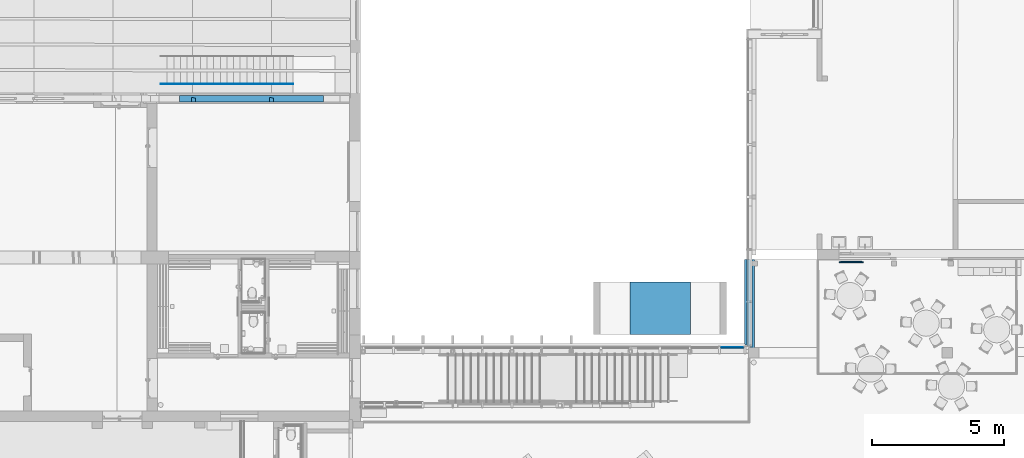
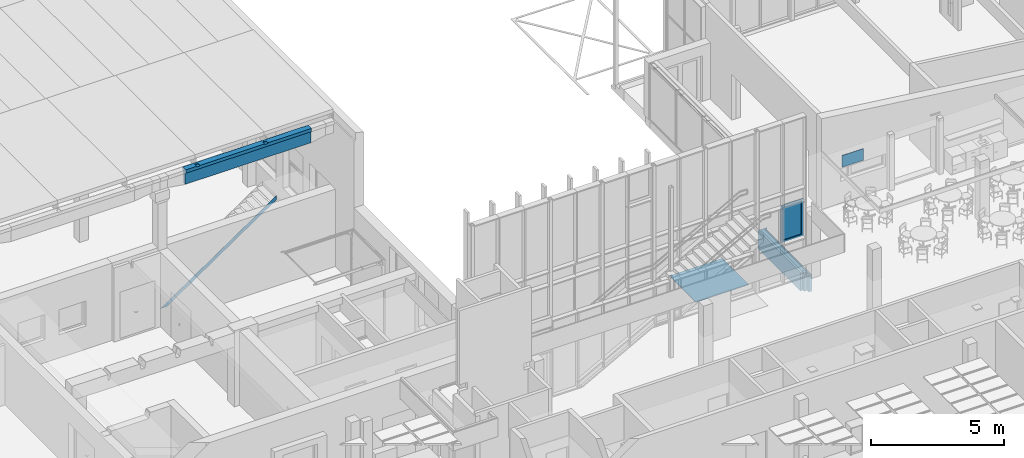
# One storey, part 202 of 301: 7 building element parts, 2 discrete accessories, 5 elements without a shape of their own.
"""IFC2X3 building model written with IfcOpenShell, lengths in millimetres."""

from ifc_helpers import new_model, entity, si_unit, converted_unit, derived_unit, money_unit, direction, frame, origin_with_axes, place, context, subcontext, project, spatial, faceted_brep, material, type_object, element, aggregate, save


model = new_model("IFC2X3")

# Units and contexts
model_context = context("Model", 3, precision=0.01, world=origin_with_axes(), true_north=direction((0.0, 1.0)))
body_context = subcontext(model_context, "Body", "Model", "MODEL_VIEW")
ifc_project = project(units=[si_unit("LENGTHUNIT", "METRE", prefix="MILLI"), si_unit("AREAUNIT", "SQUARE_METRE"), si_unit("VOLUMEUNIT", "CUBIC_METRE"), converted_unit("PLANEANGLEUNIT", "DEGREE", entity("IfcPlaneAngleMeasure", 0.0174532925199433), si_unit("PLANEANGLEUNIT", "RADIAN"), dimensions=[0, 0, 0, 0, 0, 0, 0]), money_unit("EUR"), converted_unit("TIMEUNIT", "Year", entity("IfcTimeMeasure", 31557600.0), si_unit("TIMEUNIT", "SECOND"), dimensions=[0, 0, 1, 0, 0, 0, 0]), si_unit("MASSUNIT", "GRAM", prefix="KILO"), si_unit("THERMODYNAMICTEMPERATUREUNIT", "DEGREE_CELSIUS"), si_unit("LUMINOUSINTENSITYUNIT", "LUMEN"), si_unit("ENERGYUNIT", "JOULE", prefix="MEGA"), derived_unit("THERMALCONDUCTANCEUNIT", [(si_unit("POWERUNIT", "WATT"), 1), (si_unit("LENGTHUNIT", "METRE"), -1), (si_unit("THERMODYNAMICTEMPERATUREUNIT", "KELVIN"), -1)]), derived_unit("SPECIFICHEATCAPACITYUNIT", [(si_unit("ENERGYUNIT", "JOULE"), 1), (si_unit("MASSUNIT", "GRAM", prefix="KILO"), -1), (si_unit("THERMODYNAMICTEMPERATUREUNIT", "KELVIN"), -1)]), derived_unit("MASSDENSITYUNIT", [(si_unit("MASSUNIT", "GRAM", prefix="KILO"), 1), (si_unit("VOLUMEUNIT", "CUBIC_METRE"), -1)])], contexts=[model_context])

# Site, building, storey
site_placement = place(None, frame((0.0, 0.0, 8650.0), z_axis=(0.0, 0.0, 1.0), x_axis=(1.0, 0.0, 0.0)))
site = spatial("IfcSite", under=ifc_project, at=site_placement, Name="43301:001:0844", CompositionType="ELEMENT")
building_placement = place(site_placement, origin_with_axes())
building = spatial("IfcBuilding", under=site, at=building_placement, Name="Kuressaare Ametikooli tuulikute mehaanikute õppekorpus", CompositionType="ELEMENT")
storey_placement = place(building_placement, origin_with_axes())
storey = spatial("IfcBuildingStorey", under=building, at=storey_placement, Name="1.korrus", CompositionType="ELEMENT", Elevation=0.0)

# Discrete accessories
ifc_material_1 = material(Name="GENEERILINE - EHITUSTOODE")
discrete_accessory_type_1 = type_object("IfcDiscreteAccessoryType", Name="GENEERILINE - EHITUSTOODE 20")
discrete_accessory_1_placement = place(storey_placement, frame((113867.1026822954, 29084.06892370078, -50.0), z_axis=(0.0, 0.0, 1.0), x_axis=(1.0, 0.0, 0.0)))
element("IfcDiscreteAccessory", 1, at=discrete_accessory_1_placement, inside=storey, type_object=discrete_accessory_type_1, material=ifc_material_1, Name="Jalapuhastusrest", context=body_context, shape_type="Brep", body=[
    faceted_brep([(0.0, 0.0, 0.0), (0.0, 0.0, -20.0), (2299.999999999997, 0.0, -20.0), (2299.999999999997, 0.0, 0.0), (0.0, 2000.0, 0.0), (0.0, 2000.0, -20.0), (2299.999999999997, 2000.0, -20.0), (2299.999999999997, 2000.0, 0.0)], [[[0, 1, 2, 3]], [[4, 5, 1, 0]], [[2, 1, 5, 6]], [[3, 2, 6, 7]], [[4, 0, 3, 7]], [[7, 6, 5, 4]]]),
])
discrete_accessory_type_2 = type_object("IfcDiscreteAccessoryType", Name="Flat Panel TV 27")
discrete_accessory_2_placement = place(storey_placement, frame((121807.4045027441, 31816.81986271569, 1710.47140002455), z_axis=(0.0, 0.0, 1.0), x_axis=(1.0, 0.0, 0.0)))
element("IfcDiscreteAccessory", 2, at=discrete_accessory_2_placement, inside=storey, type_object=discrete_accessory_type_2, Name="Info-TV", context=body_context, shape_type="Brep", body=[
    faceted_brep([(905.5207457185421, 0.0, 20.0), (905.5207457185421, 0.9999999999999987, 20.0), (905.5207457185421, 0.9999999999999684, 518.10541946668), (905.5207457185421, 0.0, 518.10541946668), (20.0, 0.0, 20.0), (20.0, 0.9999999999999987, 20.0), (20.0, 0.9999999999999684, 518.10541946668), (20.0, 0.0, 518.10541946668)], [[[0, 1, 2, 3]], [[4, 5, 1, 0]], [[1, 5, 6, 2]], [[3, 2, 6, 7]], [[0, 3, 7, 4]], [[7, 6, 5, 4]]]),
    faceted_brep([(925.5207457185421, 0.0, 538.10541946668), (0.0, 0.0, 538.10541946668), (0.0, 0.0, 0.0), (925.5207457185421, 0.0, 0.0), (20.00000000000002, 0.0, 19.99999999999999), (20.00000000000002, 0.0, 518.10541946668), (905.5207457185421, 0.0, 518.10541946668), (905.5207457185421, 0.0, 19.99999999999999), (925.5207456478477, 24.99999999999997, 538.105419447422), (-3.895163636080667e-07, 24.99999999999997, 538.105419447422), (-3.895163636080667e-07, 25.0, -3.895163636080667e-07), (925.5207456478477, 25.0, -3.895163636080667e-07), (20.00000000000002, 0.9999999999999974, 19.99999999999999), (20.00000000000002, 0.9999999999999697, 518.10541946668), (905.5207457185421, 0.9999999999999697, 518.10541946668), (905.5207457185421, 0.9999999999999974, 19.99999999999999), (832.2194740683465, 50.000000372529, 444.8041478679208), (93.30127118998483, 50.000000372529, 444.8041478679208), (93.30127118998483, 50.00000037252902, 93.30127118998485), (832.2194740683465, 50.00000037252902, 93.30127118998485)], [[[0, 1, 2, 3], [4, 5, 6, 7]], [[8, 9, 1, 0]], [[9, 10, 2, 1]], [[10, 11, 3, 2]], [[11, 8, 0, 3]], [[5, 4, 12, 13]], [[6, 5, 13, 14]], [[7, 6, 14, 15]], [[4, 7, 15, 12]], [[16, 17, 9, 8]], [[17, 18, 10, 9]], [[18, 19, 11, 10]], [[19, 16, 8, 11]], [[14, 13, 12, 15]], [[16, 19, 18, 17]]]),
    faceted_brep([(462.7603728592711, -0.8000000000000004, 5.0), (462.7603728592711, 0.0, 5.0), (472.0155803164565, 0.0, 10.0), (472.0155803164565, -0.8000000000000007, 10.0), (453.5051654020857, -0.8000000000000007, 10.0), (453.5051654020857, 0.0, 10.0), (370.2082982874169, 0.0, 15.0), (555.3124474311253, 0.0, 15.0), (555.3124474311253, -0.800000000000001, 15.0), (370.2082982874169, -0.800000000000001, 15.0)], [[[0, 1, 2, 3]], [[4, 5, 1, 0]], [[1, 5, 6, 7, 2]], [[3, 2, 7, 8]], [[0, 3, 8, 9, 4]], [[9, 6, 5, 4]], [[8, 7, 6, 9]]]),
    faceted_brep([(123.4027660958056, 9.999999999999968, 538.10541946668), (123.4027660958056, 9.999999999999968, 539.70541946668), (61.70138304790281, 9.999999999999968, 539.70541946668), (61.70138304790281, 9.999999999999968, 538.10541946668), (123.4027660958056, 16.24999999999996, 538.10541946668), (123.4027660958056, 16.24999999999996, 539.70541946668), (61.70138304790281, 16.24999999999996, 539.70541946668), (61.70138304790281, 16.24999999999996, 538.10541946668)], [[[0, 1, 2, 3]], [[0, 4, 5, 1]], [[1, 5, 6, 2]], [[2, 6, 7, 3]], [[3, 7, 4, 0]], [[7, 6, 5, 4]]]),
    faceted_brep([(189.5113907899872, 9.999999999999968, 538.10541946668), (189.5113907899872, 9.999999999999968, 539.70541946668), (127.8100077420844, 9.999999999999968, 539.70541946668), (127.8100077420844, 9.999999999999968, 538.10541946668), (189.5113907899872, 16.24999999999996, 538.10541946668), (189.5113907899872, 16.24999999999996, 539.70541946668), (127.8100077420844, 16.24999999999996, 539.70541946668), (127.8100077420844, 16.24999999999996, 538.10541946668)], [[[0, 1, 2, 3]], [[0, 4, 5, 1]], [[1, 5, 6, 2]], [[2, 6, 7, 3]], [[3, 7, 4, 0]], [[7, 6, 5, 4]]]),
    faceted_brep([(224.7693239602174, 9.999999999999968, 538.10541946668), (224.7693239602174, 9.999999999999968, 539.70541946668), (193.918632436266, 9.999999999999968, 539.70541946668), (193.918632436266, 9.999999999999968, 538.10541946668), (224.7693239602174, 16.24999999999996, 538.10541946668), (224.7693239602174, 16.24999999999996, 539.70541946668), (193.918632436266, 16.24999999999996, 539.70541946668), (193.918632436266, 16.24999999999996, 538.10541946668)], [[[0, 1, 2, 3]], [[0, 4, 5, 1]], [[1, 5, 6, 2]], [[2, 6, 7, 3]], [[3, 7, 4, 0]], [[7, 6, 5, 4]]]),
])

# Wall, building element parts
wall_type = type_object("IfcWallType", Name="TUUL_vundament_madal 380 x 850", PredefinedType="NOTDEFINED")
wall_placement = place(storey_placement, frame((118494.5801876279, 31928.83180723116, 0.0), z_axis=(0.0, 0.0, 1.0), x_axis=(-8.787762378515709e-06, -0.9999999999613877, 0.0)))
wall = element("IfcWall", 3, at=wall_placement, inside=storey, type_object=wall_type, Name="Sokkel")
ifc_material_2 = material(Name="Betoon - C30/37")
building_element_part_1_placement = place(wall_placement, origin_with_axes())
building_element_part_1 = element("IfcBuildingElementPart", 4, at=building_element_part_1_placement, material=ifc_material_2, Name="Betoon - C30/37", context=body_context, shape_type="Brep", body=[
    faceted_brep([(3419.213262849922, -0.001101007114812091, 0.0), (6.932027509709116, -0.03108732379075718, 0.0), (6.931148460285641, 99.9999999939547, 0.0), (0.0, 99.99999999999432, 0.0), (0.0, -49.99999999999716, 0.0), (3419.213702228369, -49.99999999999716, 0.0), (3419.213262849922, -0.001101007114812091, -99.99999999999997), (6.932027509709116, -0.03108732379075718, -99.99999999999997), (6.93114846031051, 99.99999701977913, -99.99999999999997), (3419.212384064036, 99.99999701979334, -99.99999999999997), (3419.212384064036, 99.99999701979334, -850.0000000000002), (0.0, 99.99999999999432, -850.0000000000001), (0.0, -49.99999999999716, -850.0000000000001), (3419.213702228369, -49.99999999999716, -850.0000000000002)], [[[0, 1, 2, 3, 4, 5]], [[1, 0, 6, 7]], [[8, 2, 1, 7]], [[8, 9, 10, 11, 3, 2]], [[12, 4, 3, 11]], [[12, 13, 5, 4]], [[6, 0, 5, 13, 10, 9]], [[9, 8, 7, 6]], [[11, 10, 13, 12]]]),
])
building_element_part_2_placement = place(wall_placement, origin_with_axes())
building_element_part_2 = element("IfcBuildingElementPart", 5, at=building_element_part_2_placement, material=ifc_material_2, Name="Betoon - C30/37", context=body_context, shape_type="Brep", body=[
    faceted_brep([(3289.214844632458, -180.0000000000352, 0.0), (3189.214844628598, -179.9999999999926, -10.00000000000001), (3189.214844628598, -179.9999999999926, -850.0000000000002), (0.0, -179.9999999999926, -850.0000000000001), (0.0, -179.9999999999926, 0.0), (3189.215723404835, -279.9999999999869, -10.00000000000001), (3189.215723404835, -279.9999999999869, -850.0000000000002), (0.0, -280.0000000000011, -850.0000000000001), (0.0, -280.0000000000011, -10.00000000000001)], [[[0, 1, 2, 3, 4]], [[5, 1, 0]], [[6, 2, 1, 5]], [[3, 2, 6, 7]], [[7, 8, 4, 3]], [[8, 5, 0, 4]], [[7, 6, 5, 8]]]),
])
ifc_material_3 = material(Name="Soojustus - Vahtpolüstüreen")
building_element_part_3_placement = place(wall_placement, origin_with_axes())
building_element_part_3 = element("IfcBuildingElementPart", 6, at=building_element_part_3_placement, material=ifc_material_3, Name="Soojustus - Vahtpolüstüreen", context=body_context, shape_type="Brep", body=[
    faceted_brep([(0.0, -179.9999970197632, 0.0), (3289.214847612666, -179.9999970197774, 0.0), (3289.213705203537, -49.99999478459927, 0.0), (0.0, -49.99999478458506, 0.0), (0.0, -179.9999970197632, -850.0000000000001), (3289.214847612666, -179.9999970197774, -850.0000000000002), (3289.213705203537, -49.99999478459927, -850.0000000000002), (0.0, -49.99999478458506, -850.0000000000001)], [[[0, 1, 2, 3]], [[4, 5, 1, 0]], [[5, 6, 2, 1]], [[3, 2, 6, 7]], [[7, 4, 0, 3]], [[7, 6, 5, 4]]]),
])
aggregate(wall, [building_element_part_1, building_element_part_2, building_element_part_3])

# Curtain wall, window, building element parts
curtain_wall_type = type_object("IfcCurtainWallType", Name="Curtain Wall Type", PredefinedType="NOTDEFINED")
curtain_wall_placement = place(storey_placement, frame((116704.6026822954, 28579.57374875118, 35.00000000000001), z_axis=(0.0, 0.0, 1.0), x_axis=(1.0, 0.0, 0.0)))
curtain_wall = element("IfcCurtainWall", 7, at=curtain_wall_placement, inside=storey, type_object=curtain_wall_type, Name="KF-1.1")
window_style = type_object("IfcWindowStyle", Name="964 x 1695 x 40", ConstructionType="NOTDEFINED", OperationType="SINGLE_PANEL", ParameterTakesPrecedence=False, Sizeable=False)
window_placement = place(curtain_wall_placement, frame((1049.709432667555, 0.0, 2617.500011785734), z_axis=(0.0, 0.0, 1.0), x_axis=(-1.0, 0.0, 0.0)))
window = element("IfcWindow", 8, at=window_placement, type_object=window_style, OverallHeight=1655.0, OverallWidth=924.419)
aggregate(curtain_wall, [window])
ifc_material_4 = material(Name="Aluminium")
building_element_part_4_placement = place(window_placement, origin_with_axes())
building_element_part_4 = element("IfcBuildingElementPart", 9, at=building_element_part_4_placement, material=ifc_material_4, Name="Aluminium", context=body_context, shape_type="Brep", body=[
    faceted_brep([(462.2094323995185, -30.00000000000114, -827.500004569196), (462.2094323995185, -35.00000000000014, -827.500004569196), (-462.2094291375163, -35.00000000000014, -827.500004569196), (-462.2094291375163, -30.00000000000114, -827.500004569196), (417.2094323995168, -30.00000000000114, -782.5000045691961), (417.2094323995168, -35.00000000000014, -782.5000045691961), (-417.2094291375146, -35.00000000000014, -782.5000045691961), (-417.2094291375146, -30.00000000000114, -782.5000045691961)], [[[0, 1, 2, 3]], [[4, 5, 1, 0]], [[1, 5, 6, 2]], [[3, 2, 6, 7]], [[0, 3, 7, 4]], [[7, 6, 5, 4]]]),
    faceted_brep([(-462.2094291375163, -30.00000000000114, -827.500004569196), (-462.2094291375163, -35.00000000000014, -827.500004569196), (-462.2094291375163, -35.00000000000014, 827.5000131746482), (-462.2094291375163, -30.00000000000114, 827.5000131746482), (-417.2094291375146, -30.00000000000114, -782.5000045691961), (-417.2094291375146, -35.00000000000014, -782.5000045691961), (-417.2094291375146, -35.00000000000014, 782.5000131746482), (-417.2094291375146, -30.00000000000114, 782.5000131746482)], [[[0, 1, 2, 3]], [[4, 5, 1, 0]], [[1, 5, 6, 2]], [[3, 2, 6, 7]], [[0, 3, 7, 4]], [[7, 6, 5, 4]]]),
    faceted_brep([(462.2094323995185, -30.00000000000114, 827.5000131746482), (462.2094323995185, -35.00000000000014, 827.5000131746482), (417.2094323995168, -35.00000000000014, 782.5000131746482), (417.2094323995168, -30.00000000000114, 782.5000131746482), (-462.2094291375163, -30.00000000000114, 827.5000131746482), (-462.2094291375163, -35.00000000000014, 827.5000131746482), (-417.2094291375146, -35.00000000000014, 782.5000131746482), (-417.2094291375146, -30.00000000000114, 782.5000131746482)], [[[0, 1, 2, 3]], [[4, 5, 1, 0]], [[1, 5, 6, 2]], [[3, 2, 6, 7]], [[0, 3, 7, 4]], [[7, 6, 5, 4]]]),
    faceted_brep([(462.2094323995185, -30.00000000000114, -827.500004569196), (462.2094323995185, -35.00000000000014, -827.500004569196), (417.2094323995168, -35.00000000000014, -782.5000045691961), (417.2094323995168, -30.00000000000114, -782.5000045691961), (462.2094323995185, -30.00000000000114, 827.5000131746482), (462.2094323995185, -35.00000000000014, 827.5000131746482), (417.2094323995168, -35.00000000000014, 782.5000131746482), (417.2094323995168, -30.00000000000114, 782.5000131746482)], [[[0, 1, 2, 3]], [[4, 5, 1, 0]], [[1, 5, 6, 2]], [[3, 2, 6, 7]], [[0, 3, 7, 4]], [[7, 6, 5, 4]]]),
    faceted_brep([(462.2094323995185, 19.99999999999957, -827.500004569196), (462.2094323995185, -30.00000000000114, -827.500004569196), (-462.2094291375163, -30.00000000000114, -827.500004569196), (-462.2094291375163, 19.99999999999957, -827.500004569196), (442.2094323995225, 19.99999999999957, -807.500004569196), (442.2094323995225, -30.00000000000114, -807.500004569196), (-442.2094291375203, -30.00000000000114, -807.500004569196), (-442.2094291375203, 19.99999999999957, -807.500004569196)], [[[0, 1, 2, 3]], [[4, 5, 1, 0]], [[1, 5, 6, 2]], [[3, 2, 6, 7]], [[0, 3, 7, 4]], [[7, 6, 5, 4]]]),
    faceted_brep([(-462.2094291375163, 19.99999999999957, -827.500004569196), (-462.2094291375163, -30.00000000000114, -827.500004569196), (-462.2094291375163, -30.00000000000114, 827.5000131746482), (-462.2094291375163, 19.99999999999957, 827.5000131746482), (-442.2094291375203, 19.99999999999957, -807.500004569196), (-442.2094291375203, -30.00000000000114, -807.500004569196), (-442.2094291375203, -30.00000000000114, 807.5000131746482), (-442.2094291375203, 19.99999999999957, 807.5000131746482)], [[[0, 1, 2, 3]], [[4, 5, 1, 0]], [[1, 5, 6, 2]], [[3, 2, 6, 7]], [[0, 3, 7, 4]], [[7, 6, 5, 4]]]),
    faceted_brep([(462.2094323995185, 19.99999999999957, 827.5000131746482), (462.2094323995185, -30.00000000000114, 827.5000131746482), (442.2094323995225, -30.00000000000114, 807.5000131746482), (442.2094323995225, 19.99999999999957, 807.5000131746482), (-462.2094291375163, 19.99999999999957, 827.5000131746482), (-462.2094291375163, -30.00000000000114, 827.5000131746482), (-442.2094291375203, -30.00000000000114, 807.5000131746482), (-442.2094291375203, 19.99999999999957, 807.5000131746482)], [[[0, 1, 2, 3]], [[4, 5, 1, 0]], [[1, 5, 6, 2]], [[3, 2, 6, 7]], [[0, 3, 7, 4]], [[7, 6, 5, 4]]]),
    faceted_brep([(462.2094323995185, 19.99999999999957, -827.500004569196), (462.2094323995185, -30.00000000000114, -827.500004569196), (442.2094323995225, -30.00000000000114, -807.500004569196), (442.2094323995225, 19.99999999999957, -807.500004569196), (462.2094323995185, 19.99999999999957, 827.5000131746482), (462.2094323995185, -30.00000000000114, 827.5000131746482), (442.2094323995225, -30.00000000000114, 807.5000131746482), (442.2094323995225, 19.99999999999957, 807.5000131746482)], [[[0, 1, 2, 3]], [[4, 5, 1, 0]], [[1, 5, 6, 2]], [[3, 2, 6, 7]], [[0, 3, 7, 4]], [[7, 6, 5, 4]]]),
    faceted_brep([(482.2094326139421, 19.99999999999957, -847.5000047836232), (482.2094326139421, -19.99999999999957, -847.5000047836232), (-482.2094293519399, -19.99999999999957, -847.5000047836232), (-482.2094293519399, 19.99999999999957, -847.5000047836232), (462.2094323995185, 19.99999999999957, -827.500004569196), (462.2094323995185, -19.99999999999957, -827.500004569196), (-462.2094291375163, -19.99999999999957, -827.500004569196), (-462.2094291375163, 19.99999999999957, -827.500004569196)], [[[0, 1, 2, 3]], [[4, 5, 1, 0]], [[1, 5, 6, 2]], [[3, 2, 6, 7]], [[0, 3, 7, 4]], [[7, 6, 5, 4]]]),
    faceted_brep([(-482.2094293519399, 19.99999999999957, -847.5000047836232), (-482.2094293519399, -19.99999999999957, -847.5000047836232), (-482.2094293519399, -19.99999999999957, 847.5000133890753), (-482.2094293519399, 19.99999999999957, 847.5000133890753), (-462.2094291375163, 19.99999999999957, -827.500004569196), (-462.2094291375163, -19.99999999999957, -827.500004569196), (-462.2094291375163, -19.99999999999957, 827.5000131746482), (-462.2094291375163, 19.99999999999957, 827.5000131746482)], [[[0, 1, 2, 3]], [[4, 5, 1, 0]], [[1, 5, 6, 2]], [[3, 2, 6, 7]], [[0, 3, 7, 4]], [[7, 6, 5, 4]]]),
    faceted_brep([(-482.2094293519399, 19.99999999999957, 847.5000133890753), (-482.2094293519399, -19.99999999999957, 847.5000133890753), (482.2094326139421, -19.99999999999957, 847.5000133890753), (482.2094326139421, 19.99999999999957, 847.5000133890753), (-462.2094291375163, 19.99999999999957, 827.5000131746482), (-462.2094291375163, -19.99999999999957, 827.5000131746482), (462.2094323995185, -19.99999999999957, 827.5000131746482), (462.2094323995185, 19.99999999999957, 827.5000131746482)], [[[0, 1, 2, 3]], [[4, 5, 1, 0]], [[1, 5, 6, 2]], [[3, 2, 6, 7]], [[0, 3, 7, 4]], [[7, 6, 5, 4]]]),
    faceted_brep([(482.2094326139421, 19.99999999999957, 847.5000133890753), (482.2094326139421, -19.99999999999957, 847.5000133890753), (482.2094326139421, -19.99999999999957, -847.5000047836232), (482.2094326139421, 19.99999999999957, -847.5000047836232), (462.2094323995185, 19.99999999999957, 827.5000131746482), (462.2094323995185, -19.99999999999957, 827.5000131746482), (462.2094323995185, -19.99999999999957, -827.500004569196), (462.2094323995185, 19.99999999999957, -827.500004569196)], [[[0, 1, 2, 3]], [[4, 5, 1, 0]], [[1, 5, 6, 2]], [[3, 2, 6, 7]], [[0, 3, 7, 4]], [[7, 6, 5, 4]]]),
    faceted_brep([(397.2094323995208, -30.00000000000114, -762.5000045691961), (397.2094323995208, -30.00000000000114, 762.5000131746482), (397.2094323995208, 24.99999999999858, 762.5000131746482), (397.2094323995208, 24.99999999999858, -762.5000045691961), (442.2094323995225, -30.00000000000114, -807.500004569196), (442.2094323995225, -30.00000000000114, 807.5000131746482), (442.2094323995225, 24.99999999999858, 807.5000131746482), (442.2094323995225, 24.99999999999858, -807.500004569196)], [[[0, 1, 2, 3]], [[0, 4, 5, 1]], [[1, 5, 6, 2]], [[3, 2, 6, 7]], [[4, 0, 3, 7]], [[5, 4, 7, 6]]]),
    faceted_brep([(-442.2094291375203, -30.00000000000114, -807.500004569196), (-442.2094291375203, -30.00000000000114, 807.5000131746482), (-442.2094291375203, 24.99999999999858, 807.5000131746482), (-442.2094291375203, 24.99999999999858, -807.500004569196), (-397.2094291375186, -30.00000000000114, -762.5000045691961), (-397.2094291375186, -30.00000000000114, 762.5000131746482), (-397.2094291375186, 24.99999999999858, 762.5000131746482), (-397.2094291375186, 24.99999999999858, -762.5000045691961)], [[[0, 1, 2, 3]], [[0, 4, 5, 1]], [[1, 5, 6, 2]], [[3, 2, 6, 7]], [[4, 0, 3, 7]], [[5, 4, 7, 6]]]),
    faceted_brep([(-442.2094291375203, -30.00000000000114, -807.500004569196), (-397.2094291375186, -30.00000000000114, -762.5000045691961), (-397.2094291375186, 24.99999999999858, -762.5000045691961), (-442.2094291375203, 24.99999999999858, -807.500004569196), (442.2094323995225, -30.00000000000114, -807.500004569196), (397.2094323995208, -30.00000000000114, -762.5000045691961), (397.2094323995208, 24.99999999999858, -762.5000045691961), (442.2094323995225, 24.99999999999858, -807.500004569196)], [[[0, 1, 2, 3]], [[0, 4, 5, 1]], [[1, 5, 6, 2]], [[3, 2, 6, 7]], [[4, 0, 3, 7]], [[5, 4, 7, 6]]]),
    faceted_brep([(442.2094323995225, -30.00000000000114, 807.5000131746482), (397.2094323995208, -30.00000000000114, 762.5000131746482), (397.2094323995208, 24.99999999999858, 762.5000131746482), (442.2094323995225, 24.99999999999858, 807.5000131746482), (-442.2094291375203, -30.00000000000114, 807.5000131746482), (-397.2094291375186, -30.00000000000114, 762.5000131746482), (-397.2094291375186, 24.99999999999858, 762.5000131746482), (-442.2094291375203, 24.99999999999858, 807.5000131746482)], [[[0, 1, 2, 3]], [[0, 4, 5, 1]], [[1, 5, 6, 2]], [[3, 2, 6, 7]], [[4, 0, 3, 7]], [[5, 4, 7, 6]]]),
])
ifc_material_5 = material(Name="Klaas")
building_element_part_5_placement = place(window_placement, origin_with_axes())
building_element_part_5 = element("IfcBuildingElementPart", 10, at=building_element_part_5_placement, material=ifc_material_5, Name="Klaas", context=body_context, shape_type="Brep", body=[
    faceted_brep([(397.2094323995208, -19.99999999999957, -762.5000045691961), (-397.2094291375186, -19.99999999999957, -762.5000045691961), (-397.2094291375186, -4.000000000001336, -762.5000045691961), (397.2094323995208, -4.000000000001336, -762.5000045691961), (397.2094323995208, -19.99999999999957, 762.5000131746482), (-397.2094291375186, -19.99999999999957, 762.5000131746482), (-397.2094291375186, -4.000000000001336, 762.5000131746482), (397.2094323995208, -4.000000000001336, 762.5000131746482)], [[[0, 1, 2, 3]], [[0, 4, 5, 1]], [[1, 5, 6, 2]], [[3, 2, 6, 7]], [[4, 0, 3, 7]], [[5, 4, 7, 6]]]),
])
aggregate(window, [building_element_part_4, building_element_part_5])

# Stair, building element part
stair_placement = place(storey_placement, frame((96558.67767333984, 39118.74771118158, 130.0), z_axis=(0.0, 0.0, 1.0), x_axis=(0.0, 1.0, 0.0)))
stair = element("IfcStair", 11, at=stair_placement, inside=storey, ShapeType="NOTDEFINED")
ifc_material_6 = material(Name="GENEERILINE - KONSTRUKTRIOON")
building_element_part_6_placement = place(stair_placement, origin_with_axes())
building_element_part_6 = element("IfcBuildingElementPart", 12, at=building_element_part_6_placement, material=ifc_material_6, Name="GENEERILINE - KONSTRUKTRIOON", context=body_context, shape_type="Brep", body=[
    faceted_brep([(-534.9999999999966, -4531.833648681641, 3237.641958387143), (-534.9999999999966, -4531.833648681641, 3431.257362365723), (-535.0000000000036, 503.6190566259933, 0.0), (-534.9999999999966, 219.4837945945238, 0.0), (-524.9999999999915, -4531.833648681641, 3431.257362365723), (-524.9999999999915, -4531.833648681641, 3237.641958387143), (-524.9999999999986, 503.6190566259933, 0.0), (-524.9999999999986, 219.4837945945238, 0.0)], [[[0, 1, 2, 3]], [[4, 1, 0, 5]], [[1, 4, 6, 2]], [[6, 7, 3, 2]], [[5, 0, 3, 7]], [[4, 5, 7, 6]]]),
])
aggregate(stair, [building_element_part_6])

# Beam, building element part
beam_type = type_object("IfcBeamType", Name="Various Structures - 5 Segments - 250 x 700 x 7563 (338+766+5468+631+361)", PredefinedType="NOTDEFINED")
beam_placement = place(storey_placement, frame((95664.04856966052, 38039.92828517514, 6660.0), z_axis=(0.0, 0.0, 1.0), x_axis=(0.0, -1.0, 0.0)))
beam = element("IfcBeam", 13, at=beam_placement, inside=storey, type_object=beam_type)
ifc_material_7 = material(Name="Raudbetoon")
building_element_part_7_placement = place(beam_placement, origin_with_axes())
building_element_part_7 = element("IfcBuildingElementPart", 14, at=building_element_part_7_placement, material=ifc_material_7, Name="Raudbetoon", context=body_context, shape_type="Brep", body=[
    faceted_brep([(125.0055091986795, 1716.975060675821, -25.00013400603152), (-18.93787467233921, 1716.118824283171, -25.00013400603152), (-18.52149230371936, 1646.120062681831, -25.00013400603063), (-36.28208729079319, 1646.014415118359, -25.00013400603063), (-35.83596330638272, 1571.01573894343, -25.00013400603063), (125.0055091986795, 1571.972492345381, -25.00013400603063), (96.83463083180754, 1720.4301709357, -5.086558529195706), (-18.95942316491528, 1719.74137871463, -5.086558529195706), (125.0055545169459, 1721.523091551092, 0.0), (96.83666464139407, 1721.355531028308, 0.0), (-18.52149230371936, 1646.120062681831, -5.086558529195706), (-36.28208729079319, 1646.014415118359, -5.086558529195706), (-35.81732643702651, 1567.882662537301, -5.086558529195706), (96.50360935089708, 1568.669763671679, -5.086558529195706), (96.50187907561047, 1567.869438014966, 0.0), (125.0055545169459, 1568.03898998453, 0.0), (125.0055545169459, 1103.687342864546, 0.0), (125.0052826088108, 1103.687342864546, -150.0000000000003), (125.0052826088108, 6572.077350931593, -150.0000000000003), (125.0055545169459, 6572.077350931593, 0.0), (125.0055545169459, 4681.575459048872, 0.0), (125.0055091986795, 4677.027428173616, -25.00013400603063), (125.0055091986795, 4532.024859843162, -25.00013400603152), (125.0055545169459, 4528.091357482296, 0.0), (102.9601921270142, 4528.7605376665, -5.086558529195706), (-35.663757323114, 4527.935943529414, -5.086558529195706), (-36.12851817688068, 4606.067696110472, -5.086558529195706), (-18.36792318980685, 4606.173343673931, -5.086558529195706), (-18.80585405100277, 4679.794659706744, -5.086558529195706), (103.2912136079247, 4680.520944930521, -5.086558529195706), (107.4170973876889, 6572.077350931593, -5.086558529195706), (-111.7419428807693, 6572.077350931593, -5.086558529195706), (-123.6696557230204, 1103.687342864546, -5.086558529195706), (95.48938454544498, 1103.687342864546, -5.086558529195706), (102.9584618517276, 4527.960212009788, 0.0), (95.48939994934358, 1103.687342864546, 0.0), (64.99999999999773, 1103.687342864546, -164.4012678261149), (-123.6696711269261, 1103.687342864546, 0.0), (-125.0055545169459, 1103.687342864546, 0.0), (-125.0052826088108, 1103.687342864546, -150.0000000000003), (-64.99999999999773, 1103.687342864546, -164.4012678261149), (-64.99999999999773, 1103.687342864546, -700.0000000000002), (64.99999999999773, 1103.687342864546, -700.0000000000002), (64.99999999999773, 6572.077350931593, -164.4012678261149), (-64.99999999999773, 6572.077350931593, -164.4012678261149), (-125.0052826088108, 6572.077350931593, -150.0000000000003), (-125.0055545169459, 6572.077350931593, 0.0), (-111.741958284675, 6572.077350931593, 0.0), (107.4171127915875, 6572.077350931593, 0.0), (64.99999999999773, 6572.077350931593, -700.0000000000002), (-64.99999999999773, 6572.077350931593, -700.0000000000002), (103.2932474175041, 4681.44630502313, 0.0), (-18.78430555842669, 4676.172105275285, -25.00013400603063), (-18.36792318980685, 4606.173343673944, -25.00013400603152), (-36.12851817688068, 4606.067696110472, -25.00013400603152), (-35.68239419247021, 4531.069019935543, -25.00013400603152)], [[[0, 1, 2, 3, 4, 5]], [[6, 7, 1, 0, 8, 9]], [[1, 7, 10, 2]], [[11, 3, 2, 10]], [[4, 3, 11, 12]], [[13, 14, 15, 5, 4, 12]], [[8, 0, 5, 15, 16, 17, 18, 19, 20, 21, 22, 23]], [[13, 12, 11, 10, 7, 6, 24, 25, 26, 27, 28, 29, 30, 31, 32, 33]], [[34, 9, 8, 23]], [[24, 6, 9, 34]], [[33, 35, 14, 13]], [[35, 16, 15, 14]], [[36, 17, 16, 35, 33, 32, 37, 38, 39, 40, 41, 42]], [[17, 36, 43, 18]], [[44, 45, 46, 47, 31, 30, 48, 19, 18, 43, 49, 50]], [[51, 20, 19, 48]], [[51, 29, 28, 52, 21, 20]], [[22, 21, 52, 53, 54, 55]], [[25, 24, 34, 23, 22, 55]], [[25, 55, 54, 26]], [[27, 26, 54, 53]], [[53, 52, 28, 27]], [[29, 51, 48, 30]], [[32, 31, 47, 37]], [[38, 37, 47, 46]], [[39, 38, 46, 45]], [[40, 39, 45, 44]], [[41, 40, 44, 50]], [[42, 41, 50, 49]], [[36, 42, 49, 43]]]),
])
aggregate(beam, [building_element_part_7])

save(model, "model.ifc")
